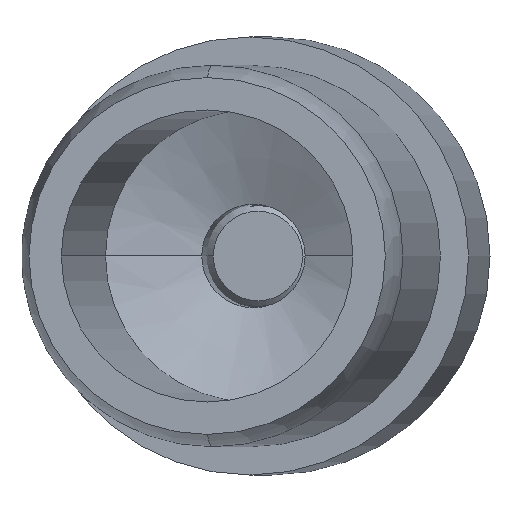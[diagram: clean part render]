
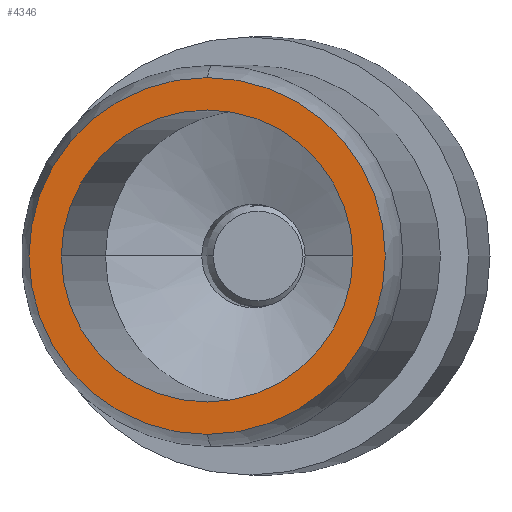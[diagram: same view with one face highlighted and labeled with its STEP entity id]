
A CAD part, left-side view. The second image highlights one B-rep face of the part: STEP entity #4346.
In plain terms, the highlighted planar face has unit normal (-0.999, 0.055, 0).
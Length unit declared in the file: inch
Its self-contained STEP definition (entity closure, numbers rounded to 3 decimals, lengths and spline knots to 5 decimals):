
#5 = DIRECTION ( 'NONE',  ( 0., 0., 1. ) ) ;
#345 = CIRCLE ( 'NONE', #3328, 0.45825 ) ;
#1406 = AXIS2_PLACEMENT_3D ( 'NONE', #7834, #1492, #8886 ) ;
#1492 = DIRECTION ( 'NONE',  ( 0.998, -0.055, 0. ) ) ;
#1898 = EDGE_CURVE ( 'NONE', #10010, #6704, #345, .T. ) ;
#2190 = ORIENTED_EDGE ( 'NONE', *, *, #9869, .T. ) ;
#2329 = CARTESIAN_POINT ( 'NONE',  ( -1.3459, 1.49623, 2.34059 ) ) ;
#2457 = EDGE_CURVE ( 'NONE', #6704, #10010, #8302, .T. ) ;
#2569 = ORIENTED_EDGE ( 'NONE', *, *, #1898, .T. ) ;
#3328 = AXIS2_PLACEMENT_3D ( 'NONE', #12691, #6346, #5 ) ;
#3403 = DIRECTION ( 'NONE',  ( 0.055, 0.998, 0. ) ) ;
#3529 = CARTESIAN_POINT ( 'NONE',  ( -1.31499, 2.05788, 2.34059 ) ) ;
#3985 = ORIENTED_EDGE ( 'NONE', *, *, #2457, .T. ) ;
#4197 = EDGE_CURVE ( 'NONE', #10273, #13349, #11841, .T. ) ;
#4346 = ADVANCED_FACE ( 'NONE', ( #13310, #10813 ), #10966, .F. ) ;
#4666 = CARTESIAN_POINT ( 'NONE',  ( -1.3459, 1.49623, 1.88234 ) ) ;
#5699 = DIRECTION ( 'NONE',  ( 0., 0., -1. ) ) ;
#5929 = CARTESIAN_POINT ( 'NONE',  ( -1.3459, 1.49623, 2.34059 ) ) ;
#5988 = AXIS2_PLACEMENT_3D ( 'NONE', #3529, #12064, #5699 ) ;
#6346 = DIRECTION ( 'NONE',  ( -0.998, 0.055, 0. ) ) ;
#6704 = VERTEX_POINT ( 'NONE', #7275 ) ;
#7000 = DIRECTION ( 'NONE',  ( 0., 0., 1. ) ) ;
#7275 = CARTESIAN_POINT ( 'NONE',  ( -1.3459, 1.49623, 2.79883 ) ) ;
#7721 = EDGE_LOOP ( 'NONE', ( #9321, #2190 ) ) ;
#7834 = CARTESIAN_POINT ( 'NONE',  ( -1.3459, 1.49623, 2.34059 ) ) ;
#8302 = CIRCLE ( 'NONE', #10130, 0.45825 ) ;
#8382 = CIRCLE ( 'NONE', #1406, 0.375 ) ;
#8886 = DIRECTION ( 'NONE',  ( 0.055, 0.998, 0. ) ) ;
#9079 = AXIS2_PLACEMENT_3D ( 'NONE', #2329, #9736, #3403 ) ;
#9117 = CARTESIAN_POINT ( 'NONE',  ( -1.32529, 1.87066, 2.34059 ) ) ;
#9321 = ORIENTED_EDGE ( 'NONE', *, *, #4197, .T. ) ;
#9736 = DIRECTION ( 'NONE',  ( 0.998, -0.055, 0. ) ) ;
#9869 = EDGE_CURVE ( 'NONE', #13349, #10273, #8382, .T. ) ;
#10010 = VERTEX_POINT ( 'NONE', #4666 ) ;
#10130 = AXIS2_PLACEMENT_3D ( 'NONE', #5929, #13346, #7000 ) ;
#10273 = VERTEX_POINT ( 'NONE', #9117 ) ;
#10626 = EDGE_LOOP ( 'NONE', ( #3985, #2569 ) ) ;
#10726 = CARTESIAN_POINT ( 'NONE',  ( -1.36651, 1.1218, 2.34059 ) ) ;
#10813 = FACE_BOUND ( 'NONE', #7721, .T. ) ;
#10966 = PLANE ( 'NONE',  #5988 ) ;
#11841 = CIRCLE ( 'NONE', #9079, 0.375 ) ;
#12064 = DIRECTION ( 'NONE',  ( 0.998, -0.055, 0. ) ) ;
#12691 = CARTESIAN_POINT ( 'NONE',  ( -1.3459, 1.49623, 2.34059 ) ) ;
#13310 = FACE_OUTER_BOUND ( 'NONE', #10626, .T. ) ;
#13346 = DIRECTION ( 'NONE',  ( -0.998, 0.055, 0. ) ) ;
#13349 = VERTEX_POINT ( 'NONE', #10726 ) ;
